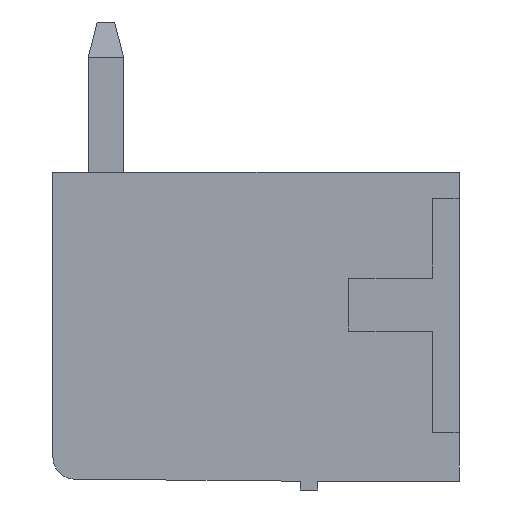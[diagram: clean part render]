
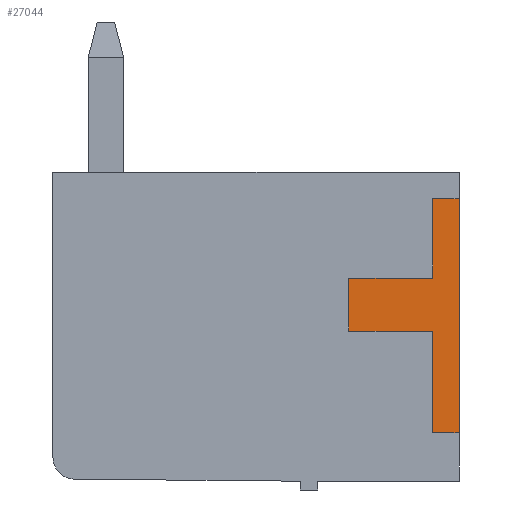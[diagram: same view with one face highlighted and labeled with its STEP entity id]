
A CAD part, left-side view. The second image highlights one B-rep face of the part: STEP entity #27044.
In plain terms, the highlighted planar face has unit normal (-1, 0, 0).
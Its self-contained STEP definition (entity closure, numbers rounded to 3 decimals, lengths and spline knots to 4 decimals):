
#9772 = PLANE('',#9773);
#9773 = AXIS2_PLACEMENT_3D('',#9774,#9775,#9776);
#9774 = CARTESIAN_POINT('',(0.,0.,7.));
#9775 = DIRECTION('',(0.,-1.,0.));
#9776 = DIRECTION('',(0.,0.,-1.));
#10448 = VERTEX_POINT('',#10449);
#10449 = CARTESIAN_POINT('',(-0.2,0.,1.1));
#10463 = PLANE('',#10464);
#10464 = AXIS2_PLACEMENT_3D('',#10465,#10466,#10467);
#10465 = CARTESIAN_POINT('',(0.,0.6,1.1));
#10466 = DIRECTION('',(0.,0.,-1.));
#10467 = DIRECTION('',(0.,-1.,0.));
#10475 = EDGE_CURVE('',#10448,#10476,#10478,.T.);
#10476 = VERTEX_POINT('',#10477);
#10477 = CARTESIAN_POINT('',(-0.2,0.,6.4));
#10478 = SURFACE_CURVE('',#10479,(#10483,#10490),.PCURVE_S1.);
#10479 = LINE('',#10480,#10481);
#10480 = CARTESIAN_POINT('',(-0.2,0.,1.1));
#10481 = VECTOR('',#10482,1.);
#10482 = DIRECTION('',(0.,0.,1.));
#10483 = PCURVE('',#9772,#10484);
#10484 = DEFINITIONAL_REPRESENTATION('',(#10485),#10489);
#10485 = LINE('',#10486,#10487);
#10486 = CARTESIAN_POINT('',(5.9,-0.2));
#10487 = VECTOR('',#10488,1.);
#10488 = DIRECTION('',(-1.,0.));
#10489 = ( GEOMETRIC_REPRESENTATION_CONTEXT(2) 
PARAMETRIC_REPRESENTATION_CONTEXT() REPRESENTATION_CONTEXT('2D SPACE',''
  ) );
#10490 = PCURVE('',#10491,#10496);
#10491 = PLANE('',#10492);
#10492 = AXIS2_PLACEMENT_3D('',#10493,#10494,#10495);
#10493 = CARTESIAN_POINT('',(-0.2,0.,0.));
#10494 = DIRECTION('',(-1.,0.,0.));
#10495 = DIRECTION('',(0.,0.,1.));
#10496 = DEFINITIONAL_REPRESENTATION('',(#10497),#10501);
#10497 = LINE('',#10498,#10499);
#10498 = CARTESIAN_POINT('',(1.1,0.));
#10499 = VECTOR('',#10500,1.);
#10500 = DIRECTION('',(1.,0.));
#10501 = ( GEOMETRIC_REPRESENTATION_CONTEXT(2) 
PARAMETRIC_REPRESENTATION_CONTEXT() REPRESENTATION_CONTEXT('2D SPACE',''
  ) );
#10519 = PLANE('',#10520);
#10520 = AXIS2_PLACEMENT_3D('',#10521,#10522,#10523);
#10521 = CARTESIAN_POINT('',(0.,0.,6.4));
#10522 = DIRECTION('',(0.,0.,1.));
#10523 = DIRECTION('',(0.,1.,0.));
#26844 = PLANE('',#26845);
#26845 = AXIS2_PLACEMENT_3D('',#26846,#26847,#26848);
#26846 = CARTESIAN_POINT('',(0.,0.6,6.4));
#26847 = DIRECTION('',(0.,1.,0.));
#26848 = DIRECTION('',(0.,0.,-1.));
#26872 = PLANE('',#26873);
#26873 = AXIS2_PLACEMENT_3D('',#26874,#26875,#26876);
#26874 = CARTESIAN_POINT('',(0.,0.6,4.6));
#26875 = DIRECTION('',(0.,0.,1.));
#26876 = DIRECTION('',(0.,1.,0.));
#26900 = PLANE('',#26901);
#26901 = AXIS2_PLACEMENT_3D('',#26902,#26903,#26904);
#26902 = CARTESIAN_POINT('',(0.,2.5,4.6));
#26903 = DIRECTION('',(0.,1.,0.));
#26904 = DIRECTION('',(0.,0.,-1.));
#26928 = PLANE('',#26929);
#26929 = AXIS2_PLACEMENT_3D('',#26930,#26931,#26932);
#26930 = CARTESIAN_POINT('',(0.,2.5,3.4));
#26931 = DIRECTION('',(0.,0.,-1.));
#26932 = DIRECTION('',(0.,-1.,0.));
#26956 = PLANE('',#26957);
#26957 = AXIS2_PLACEMENT_3D('',#26958,#26959,#26960);
#26958 = CARTESIAN_POINT('',(0.,0.6,3.4));
#26959 = DIRECTION('',(0.,1.,0.));
#26960 = DIRECTION('',(0.,0.,-1.));
#27001 = EDGE_CURVE('',#10476,#27002,#27004,.T.);
#27002 = VERTEX_POINT('',#27003);
#27003 = CARTESIAN_POINT('',(-0.2,0.6,6.4));
#27004 = SURFACE_CURVE('',#27005,(#27009,#27016),.PCURVE_S1.);
#27005 = LINE('',#27006,#27007);
#27006 = CARTESIAN_POINT('',(-0.2,0.,6.4));
#27007 = VECTOR('',#27008,1.);
#27008 = DIRECTION('',(0.,1.,0.));
#27009 = PCURVE('',#10519,#27010);
#27010 = DEFINITIONAL_REPRESENTATION('',(#27011),#27015);
#27011 = LINE('',#27012,#27013);
#27012 = CARTESIAN_POINT('',(0.,0.2));
#27013 = VECTOR('',#27014,1.);
#27014 = DIRECTION('',(1.,0.));
#27015 = ( GEOMETRIC_REPRESENTATION_CONTEXT(2) 
PARAMETRIC_REPRESENTATION_CONTEXT() REPRESENTATION_CONTEXT('2D SPACE',''
  ) );
#27016 = PCURVE('',#10491,#27017);
#27017 = DEFINITIONAL_REPRESENTATION('',(#27018),#27022);
#27018 = LINE('',#27019,#27020);
#27019 = CARTESIAN_POINT('',(6.4,0.));
#27020 = VECTOR('',#27021,1.);
#27021 = DIRECTION('',(0.,1.));
#27022 = ( GEOMETRIC_REPRESENTATION_CONTEXT(2) 
PARAMETRIC_REPRESENTATION_CONTEXT() REPRESENTATION_CONTEXT('2D SPACE',''
  ) );
#27044 = ADVANCED_FACE('',(#27045),#10491,.T.);
#27045 = FACE_BOUND('',#27046,.F.);
#27046 = EDGE_LOOP('',(#27047,#27048,#27049,#27072,#27095,#27118,#27141,
    #27164));
#27047 = ORIENTED_EDGE('',*,*,#27001,.F.);
#27048 = ORIENTED_EDGE('',*,*,#10475,.F.);
#27049 = ORIENTED_EDGE('',*,*,#27050,.F.);
#27050 = EDGE_CURVE('',#27051,#10448,#27053,.T.);
#27051 = VERTEX_POINT('',#27052);
#27052 = CARTESIAN_POINT('',(-0.2,0.6,1.1));
#27053 = SURFACE_CURVE('',#27054,(#27058,#27065),.PCURVE_S1.);
#27054 = LINE('',#27055,#27056);
#27055 = CARTESIAN_POINT('',(-0.2,0.6,1.1));
#27056 = VECTOR('',#27057,1.);
#27057 = DIRECTION('',(0.,-1.,0.));
#27058 = PCURVE('',#10491,#27059);
#27059 = DEFINITIONAL_REPRESENTATION('',(#27060),#27064);
#27060 = LINE('',#27061,#27062);
#27061 = CARTESIAN_POINT('',(1.1,0.6));
#27062 = VECTOR('',#27063,1.);
#27063 = DIRECTION('',(0.,-1.));
#27064 = ( GEOMETRIC_REPRESENTATION_CONTEXT(2) 
PARAMETRIC_REPRESENTATION_CONTEXT() REPRESENTATION_CONTEXT('2D SPACE',''
  ) );
#27065 = PCURVE('',#10463,#27066);
#27066 = DEFINITIONAL_REPRESENTATION('',(#27067),#27071);
#27067 = LINE('',#27068,#27069);
#27068 = CARTESIAN_POINT('',(0.,0.2));
#27069 = VECTOR('',#27070,1.);
#27070 = DIRECTION('',(1.,0.));
#27071 = ( GEOMETRIC_REPRESENTATION_CONTEXT(2) 
PARAMETRIC_REPRESENTATION_CONTEXT() REPRESENTATION_CONTEXT('2D SPACE',''
  ) );
#27072 = ORIENTED_EDGE('',*,*,#27073,.F.);
#27073 = EDGE_CURVE('',#27074,#27051,#27076,.T.);
#27074 = VERTEX_POINT('',#27075);
#27075 = CARTESIAN_POINT('',(-0.2,0.6,3.4));
#27076 = SURFACE_CURVE('',#27077,(#27081,#27088),.PCURVE_S1.);
#27077 = LINE('',#27078,#27079);
#27078 = CARTESIAN_POINT('',(-0.2,0.6,3.4));
#27079 = VECTOR('',#27080,1.);
#27080 = DIRECTION('',(0.,0.,-1.));
#27081 = PCURVE('',#10491,#27082);
#27082 = DEFINITIONAL_REPRESENTATION('',(#27083),#27087);
#27083 = LINE('',#27084,#27085);
#27084 = CARTESIAN_POINT('',(3.4,0.6));
#27085 = VECTOR('',#27086,1.);
#27086 = DIRECTION('',(-1.,0.));
#27087 = ( GEOMETRIC_REPRESENTATION_CONTEXT(2) 
PARAMETRIC_REPRESENTATION_CONTEXT() REPRESENTATION_CONTEXT('2D SPACE',''
  ) );
#27088 = PCURVE('',#26956,#27089);
#27089 = DEFINITIONAL_REPRESENTATION('',(#27090),#27094);
#27090 = LINE('',#27091,#27092);
#27091 = CARTESIAN_POINT('',(0.,0.2));
#27092 = VECTOR('',#27093,1.);
#27093 = DIRECTION('',(1.,0.));
#27094 = ( GEOMETRIC_REPRESENTATION_CONTEXT(2) 
PARAMETRIC_REPRESENTATION_CONTEXT() REPRESENTATION_CONTEXT('2D SPACE',''
  ) );
#27095 = ORIENTED_EDGE('',*,*,#27096,.F.);
#27096 = EDGE_CURVE('',#27097,#27074,#27099,.T.);
#27097 = VERTEX_POINT('',#27098);
#27098 = CARTESIAN_POINT('',(-0.2,2.5,3.4));
#27099 = SURFACE_CURVE('',#27100,(#27104,#27111),.PCURVE_S1.);
#27100 = LINE('',#27101,#27102);
#27101 = CARTESIAN_POINT('',(-0.2,2.5,3.4));
#27102 = VECTOR('',#27103,1.);
#27103 = DIRECTION('',(0.,-1.,0.));
#27104 = PCURVE('',#10491,#27105);
#27105 = DEFINITIONAL_REPRESENTATION('',(#27106),#27110);
#27106 = LINE('',#27107,#27108);
#27107 = CARTESIAN_POINT('',(3.4,2.5));
#27108 = VECTOR('',#27109,1.);
#27109 = DIRECTION('',(0.,-1.));
#27110 = ( GEOMETRIC_REPRESENTATION_CONTEXT(2) 
PARAMETRIC_REPRESENTATION_CONTEXT() REPRESENTATION_CONTEXT('2D SPACE',''
  ) );
#27111 = PCURVE('',#26928,#27112);
#27112 = DEFINITIONAL_REPRESENTATION('',(#27113),#27117);
#27113 = LINE('',#27114,#27115);
#27114 = CARTESIAN_POINT('',(0.,0.2));
#27115 = VECTOR('',#27116,1.);
#27116 = DIRECTION('',(1.,0.));
#27117 = ( GEOMETRIC_REPRESENTATION_CONTEXT(2) 
PARAMETRIC_REPRESENTATION_CONTEXT() REPRESENTATION_CONTEXT('2D SPACE',''
  ) );
#27118 = ORIENTED_EDGE('',*,*,#27119,.F.);
#27119 = EDGE_CURVE('',#27120,#27097,#27122,.T.);
#27120 = VERTEX_POINT('',#27121);
#27121 = CARTESIAN_POINT('',(-0.2,2.5,4.6));
#27122 = SURFACE_CURVE('',#27123,(#27127,#27134),.PCURVE_S1.);
#27123 = LINE('',#27124,#27125);
#27124 = CARTESIAN_POINT('',(-0.2,2.5,4.6));
#27125 = VECTOR('',#27126,1.);
#27126 = DIRECTION('',(0.,0.,-1.));
#27127 = PCURVE('',#10491,#27128);
#27128 = DEFINITIONAL_REPRESENTATION('',(#27129),#27133);
#27129 = LINE('',#27130,#27131);
#27130 = CARTESIAN_POINT('',(4.6,2.5));
#27131 = VECTOR('',#27132,1.);
#27132 = DIRECTION('',(-1.,0.));
#27133 = ( GEOMETRIC_REPRESENTATION_CONTEXT(2) 
PARAMETRIC_REPRESENTATION_CONTEXT() REPRESENTATION_CONTEXT('2D SPACE',''
  ) );
#27134 = PCURVE('',#26900,#27135);
#27135 = DEFINITIONAL_REPRESENTATION('',(#27136),#27140);
#27136 = LINE('',#27137,#27138);
#27137 = CARTESIAN_POINT('',(0.,0.2));
#27138 = VECTOR('',#27139,1.);
#27139 = DIRECTION('',(1.,0.));
#27140 = ( GEOMETRIC_REPRESENTATION_CONTEXT(2) 
PARAMETRIC_REPRESENTATION_CONTEXT() REPRESENTATION_CONTEXT('2D SPACE',''
  ) );
#27141 = ORIENTED_EDGE('',*,*,#27142,.F.);
#27142 = EDGE_CURVE('',#27143,#27120,#27145,.T.);
#27143 = VERTEX_POINT('',#27144);
#27144 = CARTESIAN_POINT('',(-0.2,0.6,4.6));
#27145 = SURFACE_CURVE('',#27146,(#27150,#27157),.PCURVE_S1.);
#27146 = LINE('',#27147,#27148);
#27147 = CARTESIAN_POINT('',(-0.2,0.6,4.6));
#27148 = VECTOR('',#27149,1.);
#27149 = DIRECTION('',(0.,1.,0.));
#27150 = PCURVE('',#10491,#27151);
#27151 = DEFINITIONAL_REPRESENTATION('',(#27152),#27156);
#27152 = LINE('',#27153,#27154);
#27153 = CARTESIAN_POINT('',(4.6,0.6));
#27154 = VECTOR('',#27155,1.);
#27155 = DIRECTION('',(0.,1.));
#27156 = ( GEOMETRIC_REPRESENTATION_CONTEXT(2) 
PARAMETRIC_REPRESENTATION_CONTEXT() REPRESENTATION_CONTEXT('2D SPACE',''
  ) );
#27157 = PCURVE('',#26872,#27158);
#27158 = DEFINITIONAL_REPRESENTATION('',(#27159),#27163);
#27159 = LINE('',#27160,#27161);
#27160 = CARTESIAN_POINT('',(0.,0.2));
#27161 = VECTOR('',#27162,1.);
#27162 = DIRECTION('',(1.,0.));
#27163 = ( GEOMETRIC_REPRESENTATION_CONTEXT(2) 
PARAMETRIC_REPRESENTATION_CONTEXT() REPRESENTATION_CONTEXT('2D SPACE',''
  ) );
#27164 = ORIENTED_EDGE('',*,*,#27165,.F.);
#27165 = EDGE_CURVE('',#27002,#27143,#27166,.T.);
#27166 = SURFACE_CURVE('',#27167,(#27171,#27178),.PCURVE_S1.);
#27167 = LINE('',#27168,#27169);
#27168 = CARTESIAN_POINT('',(-0.2,0.6,6.4));
#27169 = VECTOR('',#27170,1.);
#27170 = DIRECTION('',(0.,0.,-1.));
#27171 = PCURVE('',#10491,#27172);
#27172 = DEFINITIONAL_REPRESENTATION('',(#27173),#27177);
#27173 = LINE('',#27174,#27175);
#27174 = CARTESIAN_POINT('',(6.4,0.6));
#27175 = VECTOR('',#27176,1.);
#27176 = DIRECTION('',(-1.,0.));
#27177 = ( GEOMETRIC_REPRESENTATION_CONTEXT(2) 
PARAMETRIC_REPRESENTATION_CONTEXT() REPRESENTATION_CONTEXT('2D SPACE',''
  ) );
#27178 = PCURVE('',#26844,#27179);
#27179 = DEFINITIONAL_REPRESENTATION('',(#27180),#27184);
#27180 = LINE('',#27181,#27182);
#27181 = CARTESIAN_POINT('',(0.,0.2));
#27182 = VECTOR('',#27183,1.);
#27183 = DIRECTION('',(1.,0.));
#27184 = ( GEOMETRIC_REPRESENTATION_CONTEXT(2) 
PARAMETRIC_REPRESENTATION_CONTEXT() REPRESENTATION_CONTEXT('2D SPACE',''
  ) );
